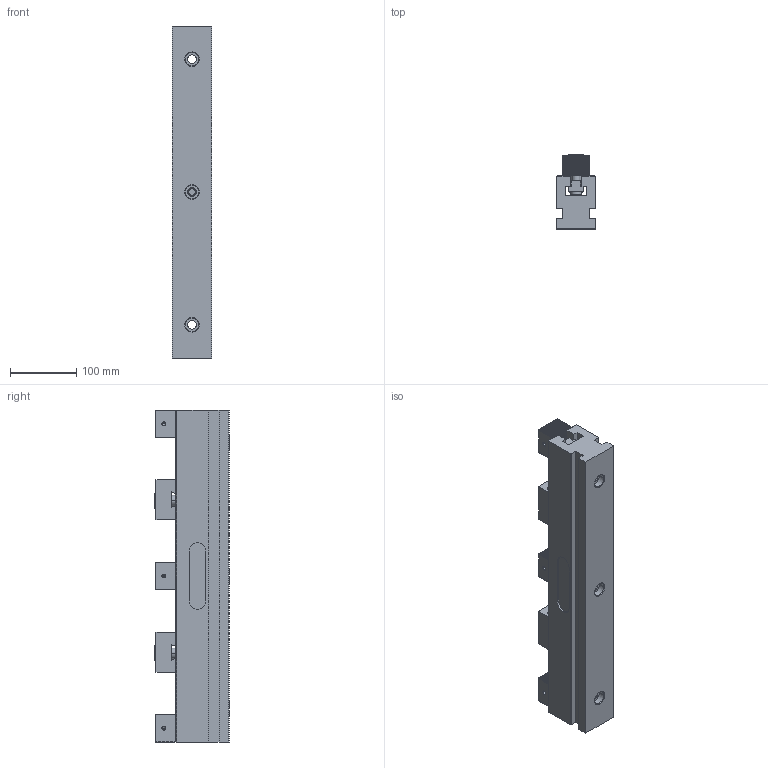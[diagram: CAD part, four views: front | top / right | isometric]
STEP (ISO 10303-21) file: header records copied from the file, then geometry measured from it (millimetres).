
FILE_DESCRIPTION((''),'2;1');
FILE_NAME('FG_VC_RAIL_00500NP002_ASM','2026-03-24T17:05:11',('Admin'),(''),'CREO PARAMETRIC BY PTC INC, 2025010','CREO PARAMETRIC BY PTC INC, 2025010','');
FILE_SCHEMA(('CONFIG_CONTROL_DESIGN'));
Products named in the file (5): BODY_500RAIL_VICE_; UNIFORCE_CLAMP_SIZE_03; FIXED_CLAMPING_JAW_SERR_ASM; ISO4762-M16X45-10_9; FG_VC_RAIL_00500NP002_ASM
Assembly tree (8 placements, depth 2):
  FG_VC_RAIL_00500NP002_ASM
    BODY_500RAIL_VICE_
    UNIFORCE_CLAMP_SIZE_03  x2
    FIXED_CLAMPING_JAW_SERR_ASM  x3
    ISO4762-M16X45-10_9  x2
Bounding box: 60 x 111.5 x 500 mm (x, y, z)
Volume: 2113159.1 mm3; surface area: 318479.3 mm2
Topology: 8 solids, 38 shells, 15385 faces, 37146 edges, 21966 vertices
Faces by surface type: plane 15193, cylinder 154, cone 28, torus 10
Entity records: 266000 total; most frequent: CARTESIAN_POINT 47587, ORIENTED_EDGE 46860, DIRECTION 41444, EDGE_CURVE 23456, VECTOR 23208, LINE 23208, VERTEX_POINT 14708, AXIS2_PLACEMENT_3D 9118
